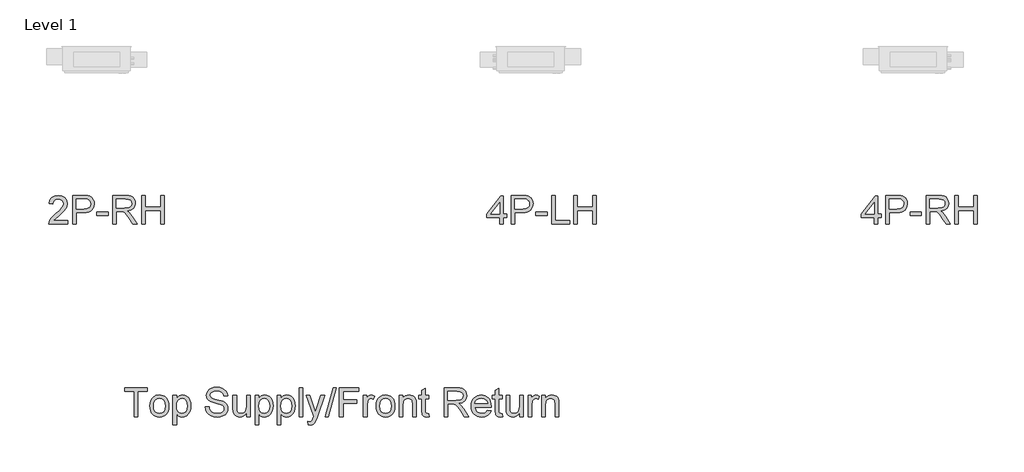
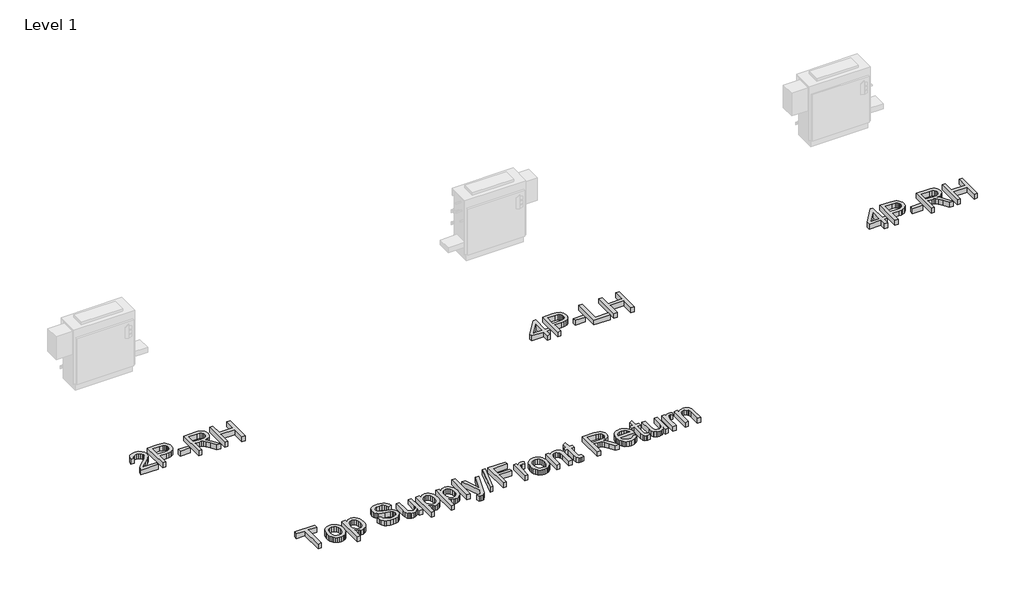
# One storey, part 3 of 3: 4 proxies.
"""IFC4 building model written with IfcOpenShell, lengths in millimetres."""

from ifc_helpers import new_model, si_unit, origin, origin_with_axes, place, context, project, spatial, polyline, outline, extrude, element, save

model = new_model("IFC4")

# Units and contexts
model_context = context("Model", 3, world=origin())
ifc_project = project(units=[si_unit("LENGTHUNIT", "METRE", prefix="MILLI")], contexts=[model_context])

# Site, building, storey
site = spatial("IfcSite", under=ifc_project)
building = spatial("IfcBuilding", under=site)
storey = spatial("IfcBuildingStorey", under=building, Name="Level 1", Elevation=0.0)

# Proxies
placement = place(None, origin())
element("IfcBuildingElementProxy", 1, Name="24\" Arial", ObjectType="24\" Arial", at=placement, inside=storey, context=model_context, shape_type="SweptSolid", body=[
    extrude(outline(polyline([(2904.3902636, -2672.4337764), (2904.3902636, -2612.6308793), (2788.7713292, -2612.6308793), (2788.7713292, -2580.7360008), (2912.3639833, -2421.2616085), (2936.2851421, -2421.2616085), (2936.2851421, -2580.7360008), (2968.1800206, -2580.7360008), (2968.1800206, -2612.6308793), (2936.2851421, -2612.6308793), (2936.2851421, -2672.4337764), (2904.3902636, -2672.4337764)]), holes=[polyline([(2904.3902636, -2580.7360008), (2904.3902636, -2482.1858099), (2828.0169804, -2580.7360008), (2904.3902636, -2580.7360008)])]), origin_with_axes(), (0.0, 0.0, 1.0), 50.8),
    extrude(outline(polyline([(3008.0486187, -2672.4337764), (3008.0486187, -2417.2747487), (3102.6119498, -2417.2747487), (3140.7362967, -2419.7042414), (3157.7349587, -2424.2439665), (3171.7279022, -2431.6336734), (3182.9954533, -2442.2081961), (3191.817938, -2456.3023685), (3197.5179016, -2472.9272624), (3199.4178895, -2491.0939498), (3194.2863649, -2521.1667088), (3178.891791, -2546.2247456), (3166.5632836, -2556.0906663), (3150.1038599, -2563.1377525), (3129.5135199, -2567.3660042), (3104.7922637, -2568.7754214), (3039.9434971, -2568.7754214), (3039.9434971, -2672.4337764), (3008.0486187, -2672.4337764)]), holes=[polyline([(3039.9434971, -2536.8805429), (3106.6611043, -2536.8805429), (3134.942891, -2533.9526928), (3153.6312964, -2525.1691422), (3164.0500824, -2511.0749699), (3167.523011, -2492.2152541), (3165.4750733, -2477.8874767), (3159.33126, -2465.8023079), (3149.8546811, -2456.707284), (3137.8084465, -2451.3499411), (3105.913568, -2449.1696271), (3039.9434971, -2449.1696271), (3039.9434971, -2536.8805429)])]), origin_with_axes(), (0.0, 0.0, 1.0), 50.8),
    extrude(outline(polyline([(3223.3390484, -2596.6834401), (3223.3390484, -2564.7885616), (3323.0105436, -2564.7885616), (3323.0105436, -2596.6834401), (3223.3390484, -2596.6834401)])), origin_with_axes(), (0.0, 0.0, 1.0), 50.8),
    extrude(outline(polyline([(3362.8791417, -2672.4337764), (3362.8791417, -2417.2747487), (3394.7740202, -2417.2747487), (3394.7740202, -2640.538898), (3522.353534, -2640.538898), (3522.353534, -2672.4337764), (3362.8791417, -2672.4337764)])), origin_with_axes(), (0.0, 0.0, 1.0), 50.8),
    extrude(outline(polyline([(3558.2352723, -2672.4337764), (3558.2352723, -2417.2747487), (3590.1301508, -2417.2747487), (3590.1301508, -2520.9331037), (3725.6833843, -2520.9331037), (3725.6833843, -2417.2747487), (3757.5782628, -2417.2747487), (3757.5782628, -2672.4337764), (3725.6833843, -2672.4337764), (3725.6833843, -2552.8279822), (3590.1301508, -2552.8279822), (3590.1301508, -2672.4337764), (3558.2352723, -2672.4337764)])), origin_with_axes(), (0.0, 0.0, 1.0), 50.8),
])
element("IfcBuildingElementProxy", 2, Name="24\" Arial", ObjectType="24\" Arial", at=placement, inside=storey, context=model_context, shape_type="SweptSolid", body=[
    extrude(outline(polyline([(6212.1276029, -2672.4337764), (6212.1276029, -2612.6308793), (6096.5086684, -2612.6308793), (6096.5086684, -2580.7360008), (6220.1013225, -2421.2616085), (6244.0224813, -2421.2616085), (6244.0224813, -2580.7360008), (6275.9173598, -2580.7360008), (6275.9173598, -2612.6308793), (6244.0224813, -2612.6308793), (6244.0224813, -2672.4337764), (6212.1276029, -2672.4337764)]), holes=[polyline([(6212.1276029, -2580.7360008), (6212.1276029, -2482.1858099), (6135.7543196, -2580.7360008), (6212.1276029, -2580.7360008)])]), origin_with_axes(), (0.0, 0.0, 1.0), 50.8),
    extrude(outline(polyline([(6315.7859579, -2672.4337764), (6315.7859579, -2417.2747487), (6410.349289, -2417.2747487), (6448.4736359, -2419.7042414), (6465.4722979, -2424.2439665), (6479.4652415, -2431.6336734), (6490.7327925, -2442.2081961), (6499.5552772, -2456.3023685), (6505.2552408, -2472.9272624), (6507.1552287, -2491.0939498), (6502.0237041, -2521.1667088), (6486.6291302, -2546.2247456), (6474.3006228, -2556.0906663), (6457.8411991, -2563.1377525), (6437.2508592, -2567.3660042), (6412.5296029, -2568.7754214), (6347.6808364, -2568.7754214), (6347.6808364, -2672.4337764), (6315.7859579, -2672.4337764)]), holes=[polyline([(6347.6808364, -2536.8805429), (6414.3984435, -2536.8805429), (6442.6802302, -2533.9526928), (6461.3686356, -2525.1691422), (6471.7874216, -2511.0749699), (6475.2603503, -2492.2152541), (6473.2124125, -2477.8874767), (6467.0685992, -2465.8023079), (6457.5920204, -2456.707284), (6445.5457857, -2451.3499411), (6413.6509073, -2449.1696271), (6347.6808364, -2449.1696271), (6347.6808364, -2536.8805429)])]), origin_with_axes(), (0.0, 0.0, 1.0), 50.8),
    extrude(outline(polyline([(6531.0763876, -2596.6834401), (6531.0763876, -2564.7885616), (6630.7478828, -2564.7885616), (6630.7478828, -2596.6834401), (6531.0763876, -2596.6834401)])), origin_with_axes(), (0.0, 0.0, 1.0), 50.8),
    extrude(outline(polyline([(6670.6164809, -2672.4337764), (6670.6164809, -2417.2747487), (6780.5665991, -2417.2747487), (6810.11764, -2418.9956393), (6831.617093, -2424.1583113), (6847.3309272, -2433.689398), (6859.5251117, -2448.5155329), (6867.3508814, -2466.9002517), (6869.9594713, -2487.10709), (6865.6377776, -2512.2429952), (6852.6726964, -2533.0805672), (6830.6748859, -2548.3583385), (6799.2550044, -2556.814842), (6817.3827576, -2570.4573779), (6843.2350517, -2603.2866766), (6885.7823212, -2672.4337764), (6848.7169839, -2672.4337764), (6815.5139171, -2619.5455893), (6791.5304635, -2584.5359766), (6774.6797514, -2567.9967378), (6759.5109957, -2561.9230061), (6741.0094744, -2560.8017018), (6702.5113594, -2560.8017018), (6702.5113594, -2672.4337764), (6670.6164809, -2672.4337764)]), holes=[polyline([(6702.5113594, -2528.9068233), (6773.9010678, -2528.9068233), (6810.3123109, -2524.3904587), (6822.288464, -2518.5191847), (6830.9941462, -2509.9380919), (6836.2969812, -2499.5582401), (6838.0645929, -2488.290689), (6834.6928931, -2472.7325915), (6824.5777937, -2460.1957863), (6807.1742162, -2451.9261669), (6781.9370821, -2449.1696271), (6702.5113594, -2449.1696271), (6702.5113594, -2528.9068233)])]), origin_with_axes(), (0.0, 0.0, 1.0), 50.8),
    extrude(outline(polyline([(6925.7755087, -2672.4337764), (6925.7755087, -2417.2747487), (6957.6703871, -2417.2747487), (6957.6703871, -2520.9331037), (7093.2236207, -2520.9331037), (7093.2236207, -2417.2747487), (7125.1184991, -2417.2747487), (7125.1184991, -2672.4337764), (7093.2236207, -2672.4337764), (7093.2236207, -2552.8279822), (6957.6703871, -2552.8279822), (6957.6703871, -2672.4337764), (6925.7755087, -2672.4337764)])), origin_with_axes(), (0.0, 0.0, 1.0), 50.8),
])
element("IfcBuildingElementProxy", 3, Name="24\" Arial", ObjectType="24\" Arial", at=placement, inside=storey, context=model_context, shape_type="SweptSolid", body=[
    extrude(outline(polyline([(-911.857121, -2640.538898), (-911.857121, -2672.4337764), (-1079.305233, -2672.4337764), (-1075.8790253, -2650.4437528), (-1068.0143214, -2633.2582067), (-1056.5053785, -2616.5865918), (-1016.5744857, -2579.6146965), (-982.1566725, -2549.0435801), (-961.5059846, -2526.4773306), (-951.1806406, -2508.1626934), (-947.7388593, -2490.3464136), (-950.9859697, -2474.3756138), (-960.727301, -2461.0990592), (-975.7013858, -2452.1519851), (-994.6467567, -2449.1696271), (-1014.5421216, -2452.0819036), (-1029.9989902, -2460.8187331), (-1039.9739266, -2474.6948741), (-1043.4234947, -2493.025085), (-1075.3183732, -2489.0382252), (-1067.5860455, -2458.1867827), (-1050.8677095, -2435.6516806), (-1026.0354909, -2421.8689816), (-993.9615152, -2417.2747487), (-961.6539345, -2422.3829128), (-936.8684368, -2437.7074052), (-921.1000948, -2460.6007017), (-915.8439808, -2488.4152784), (-921.5127971, -2518.6593477), (-940.3569392, -2549.9312793), (-986.0500903, -2593.6310005), (-1022.7416595, -2624.3111326), (-1037.1317316, -2640.538898), (-911.857121, -2640.538898)])), origin_with_axes(), (0.0, 0.0, 1.0), 50.8),
    extrude(outline(polyline([(-868.0016631, -2672.4337764), (-868.0016631, -2417.2747487), (-773.438332, -2417.2747487), (-735.3139851, -2419.7042414), (-718.3153231, -2424.2439665), (-704.3223795, -2431.6336734), (-693.0548285, -2442.2081961), (-684.2323438, -2456.3023685), (-678.5323802, -2472.9272624), (-676.6323923, -2491.0939498), (-681.7639169, -2521.1667088), (-697.1584908, -2546.2247456), (-709.4869982, -2556.0906663), (-725.9464219, -2563.1377525), (-746.5367619, -2567.3660042), (-771.2580181, -2568.7754214), (-836.1067846, -2568.7754214), (-836.1067846, -2672.4337764), (-868.0016631, -2672.4337764)]), holes=[polyline([(-836.1067846, -2536.8805429), (-769.3891775, -2536.8805429), (-741.1073908, -2533.9526928), (-722.4189854, -2525.1691422), (-712.0001994, -2511.0749699), (-708.5272708, -2492.2152541), (-710.5752085, -2477.8874767), (-716.7190218, -2465.8023079), (-726.1956007, -2456.707284), (-738.2418353, -2451.3499411), (-770.1367137, -2449.1696271), (-836.1067846, -2449.1696271), (-836.1067846, -2536.8805429)])]), origin_with_axes(), (0.0, 0.0, 1.0), 50.8),
    extrude(outline(polyline([(-652.7112334, -2596.6834401), (-652.7112334, -2564.7885616), (-553.0397382, -2564.7885616), (-553.0397382, -2596.6834401), (-652.7112334, -2596.6834401)])), origin_with_axes(), (0.0, 0.0, 1.0), 50.8),
    extrude(outline(polyline([(-513.1711401, -2672.4337764), (-513.1711401, -2417.2747487), (-403.2210219, -2417.2747487), (-373.669981, -2418.9956393), (-352.170528, -2424.1583113), (-336.4566938, -2433.689398), (-324.2625093, -2448.5155329), (-316.4367396, -2466.9002517), (-313.8281497, -2487.10709), (-318.1498434, -2512.2429952), (-331.1149246, -2533.0805672), (-353.1127351, -2548.3583385), (-384.5326166, -2556.814842), (-366.4048634, -2570.4573779), (-340.5525693, -2603.2866766), (-298.0052998, -2672.4337764), (-335.0706371, -2672.4337764), (-368.2737039, -2619.5455893), (-392.2571575, -2584.5359766), (-409.1078696, -2567.9967378), (-424.2766253, -2561.9230061), (-442.7781466, -2560.8017018), (-481.2762616, -2560.8017018), (-481.2762616, -2672.4337764), (-513.1711401, -2672.4337764)]), holes=[polyline([(-481.2762616, -2528.9068233), (-409.8865532, -2528.9068233), (-373.4753101, -2524.3904587), (-361.499157, -2518.5191847), (-352.7934748, -2509.9380919), (-347.4906398, -2499.5582401), (-345.7230281, -2488.290689), (-349.0947279, -2472.7325915), (-359.2098273, -2460.1957863), (-376.6134048, -2451.9261669), (-401.8505389, -2449.1696271), (-481.2762616, -2449.1696271), (-481.2762616, -2528.9068233)])]), origin_with_axes(), (0.0, 0.0, 1.0), 50.8),
    extrude(outline(polyline([(-258.0121123, -2672.4337764), (-258.0121123, -2417.2747487), (-226.1172339, -2417.2747487), (-226.1172339, -2520.9331037), (-90.5640003, -2520.9331037), (-90.5640003, -2417.2747487), (-58.6691219, -2417.2747487), (-58.6691219, -2672.4337764), (-90.5640003, -2672.4337764), (-90.5640003, -2552.8279822), (-226.1172339, -2552.8279822), (-226.1172339, -2672.4337764), (-258.0121123, -2672.4337764)])), origin_with_axes(), (0.0, 0.0, 1.0), 50.8),
])
element("IfcBuildingElementProxy", 4, Name="24\" Arial", ObjectType="24\" Arial", at=placement, inside=storey, context=model_context, shape_type="SweptSolid", body=[
    extrude(outline(polyline([(-324.4480727, -4373.3936295), (-324.4480727, -4150.1294801), (-408.1721287, -4150.1294801), (-408.1721287, -4118.2346017), (-208.8291382, -4118.2346017), (-208.8291382, -4150.1294801), (-292.5531942, -4150.1294801), (-292.5531942, -4373.3936295), (-324.4480727, -4373.3936295)])), origin_with_axes(), (0.0, 0.0, 1.0), 50.8),
    extrude(outline(polyline([(-184.9079794, -4279.7024239), (-183.1831953, -4255.4347509), (-178.0088431, -4234.523204), (-169.3849227, -4216.9677832), (-157.3114341, -4202.7684886), (-131.7394661, -4187.2103911), (-101.1216287, -4182.0243586), (-83.525327, -4183.6031395), (-67.6148753, -4188.3394823), (-53.3902734, -4196.2333868), (-40.8515214, -4207.2848532), (-30.6176728, -4221.1201133), (-23.3077809, -4237.365399), (-18.9218458, -4256.0207103), (-17.4598674, -4277.0860472), (-20.0450968, -4309.3079728), (-27.800785, -4333.8365048), (-40.5011138, -4352.2056499), (-57.920265, -4365.9494147), (-78.6098871, -4374.5227206), (-101.1216287, -4377.3804893), (-118.9748959, -4375.8075485), (-135.0332976, -4371.0887261), (-149.2968336, -4363.2240222), (-161.7655041, -4352.2134367), (-171.890337, -4338.2438537), (-179.1223606, -4321.5021573), (-183.4615747, -4301.9883473), (-184.9079794, -4279.7024239)]), holes=[polyline([(-153.0131009, -4279.6401293), (-149.3221408, -4308.5059287), (-138.2492607, -4329.0709614), (-121.5854326, -4341.3819484), (-101.1216287, -4345.4856108), (-80.7512669, -4341.3585879), (-64.1185861, -4328.9775194), (-53.0457059, -4308.1399474), (-49.3547459, -4278.6434143), (-53.0690664, -4250.6185931), (-64.2120281, -4230.3338865), (-80.8680694, -4218.0228994), (-101.1216287, -4213.9192371), (-121.5854326, -4218.0073258), (-138.2492607, -4230.2715918), (-149.3221408, -4250.7899035), (-153.0131009, -4279.6401293)])]), origin_with_axes(), (0.0, 0.0, 1.0), 50.8),
    extrude(outline(polyline([(18.4218709, -4445.157106), (18.4218709, -4186.0112184), (50.3167494, -4186.0112184), (50.3167494, -4217.2831501), (60.7199617, -4201.8574288), (72.3690677, -4190.8390565), (85.9493089, -4184.2280331), (102.1459269, -4182.0243586), (123.7154614, -4185.1079455), (142.5751771, -4194.3587062), (157.9308169, -4209.2159884), (168.9881234, -4229.1191401), (175.6692283, -4252.6198098), (177.8962632, -4278.2696462), (175.3811154, -4305.5469312), (167.8356717, -4329.943087), (155.5013242, -4350.2200068), (138.6194647, -4365.1395838), (118.9577049, -4374.3202629), (98.2836564, -4377.3804893), (83.6210451, -4375.3325515), (70.5313745, -4369.1887382), (50.3167494, -4348.4757556), (50.3167494, -4445.157106), (18.4218709, -4445.157106)]), holes=[polyline([(50.3167494, -4281.1974964), (53.7663175, -4309.7907566), (64.115022, -4329.7873503), (79.3850065, -4341.5610457), (97.5984149, -4345.4856108), (116.107723, -4341.4208826), (131.7670494, -4329.2266981), (142.4428009, -4308.4981419), (146.0013848, -4278.8302984), (142.5284561, -4250.3927749), (132.1096701, -4230.1158551), (116.8630461, -4217.9683916), (98.9066033, -4213.9192371), (80.8800789, -4218.2253572), (65.0494422, -4231.1437174), (53.9999226, -4252.2694022), (50.3167494, -4281.1974964)])]), origin_with_axes(), (0.0, 0.0, 1.0), 50.8),
    extrude(outline(polyline([(305.4757771, -4285.6827137), (337.3706556, -4285.6827137), (341.0304683, -4303.3821909), (347.6492786, -4317.6087395), (357.9746225, -4328.899651), (372.7540364, -4337.7922173), (390.8194949, -4343.5622624), (411.0029727, -4345.4856108), (428.7725315, -4344.0294725), (444.3306289, -4339.6610578), (456.9375157, -4332.7463478), (465.8534424, -4323.6513239), (471.1562774, -4313.2091774), (472.9238891, -4302.2530997), (467.6288409, -4282.349948), (459.5616793, -4274.4774573), (445.9502907, -4267.8664339), (399.5096034, -4255.6878231), (349.5181191, -4239.9584152), (333.6407614, -4229.2281558), (322.388784, -4216.2241404), (315.6843186, -4201.2266951), (313.4494968, -4184.516146), (316.2138234, -4165.8355275), (324.5068033, -4148.4163763), (338.110405, -4133.6525361), (356.8065972, -4122.9378504), (379.2482573, -4116.420269), (404.0882627, -4114.2477419), (430.9995664, -4116.5214978), (454.5469572, -4123.3427658), (473.8894567, -4134.5713827), (488.1860868, -4150.0671855), (497.2343898, -4168.8646065), (500.8319078, -4189.9980782), (468.9370293, -4189.9980782), (463.081329, -4170.9670521), (450.8715708, -4157.2310742), (431.7938237, -4148.9147338), (405.3341564, -4146.1426203), (378.2515423, -4148.8835865), (359.6721527, -4157.1064848), (348.9263196, -4169.2072273), (345.3443752, -4183.5817257), (347.8828836, -4195.8382049), (355.4984088, -4205.6963387), (373.5015726, -4214.5110366), (407.5767651, -4223.5126185), (464.0157492, -4239.5223524), (482.1980103, -4251.0935901), (494.8827654, -4265.3746465), (502.334767, -4282.209785), (504.8187676, -4301.4432688), (501.9609989, -4321.1050286), (493.387693, -4339.5987631), (479.4492573, -4355.515055), (460.4960996, -4367.4444871), (437.7040319, -4374.8964887), (412.2488664, -4377.3804893), (381.0002953, -4374.7018178), (355.2803774, -4366.6658035), (334.793213, -4353.241299), (319.2429024, -4334.3971569), (309.2601792, -4311.4415657), (305.4757771, -4285.6827137)])), origin_with_axes(), (0.0, 0.0, 1.0), 50.8),
    extrude(outline(polyline([(668.2800198, -4373.3936295), (668.2800198, -4341.1872776), (656.7399295, -4357.0218077), (643.2998513, -4368.3321863), (627.9597852, -4375.1184135), (610.7197313, -4377.3804893), (595.1849943, -4375.7919748), (580.7248407, -4371.0264314), (568.5929509, -4363.8625427), (560.0430054, -4355.0789922), (550.543066, -4331.5938961), (548.6742255, -4301.9416263), (548.6742255, -4186.0112184), (580.569104, -4186.0112184), (580.569104, -4286.9286073), (582.5002392, -4319.4464327), (587.14898, -4330.2934946), (595.1149128, -4338.5397535), (605.8685327, -4343.7491465), (618.8803349, -4345.4856108), (632.6396734, -4343.7102123), (645.5113126, -4338.3840168), (656.1247694, -4329.9975949), (663.1095609, -4319.0415172), (666.9874051, -4304.0362851), (668.2800198, -4283.5023997), (668.2800198, -4186.0112184), (700.1748982, -4186.0112184), (700.1748982, -4373.3936295), (668.2800198, -4373.3936295)])), origin_with_axes(), (0.0, 0.0, 1.0), 50.8),
    extrude(outline(polyline([(744.0303561, -4445.157106), (744.0303561, -4186.0112184), (775.9252346, -4186.0112184), (775.9252346, -4217.2831501), (786.3284469, -4201.8574288), (797.9775529, -4190.8390565), (811.5577942, -4184.2280331), (827.7544121, -4182.0243586), (849.3239466, -4185.1079455), (868.1836624, -4194.3587062), (883.5393021, -4209.2159884), (894.5966086, -4229.1191401), (901.2777135, -4252.6198098), (903.5047485, -4278.2696462), (900.9896006, -4305.5469312), (893.4441569, -4329.943087), (881.1098094, -4350.2200068), (864.2279499, -4365.1395838), (844.5661901, -4374.3202629), (823.8921417, -4377.3804893), (809.2295303, -4375.3325515), (796.1398597, -4369.1887382), (775.9252346, -4348.4757556), (775.9252346, -4445.157106), (744.0303561, -4445.157106)]), holes=[polyline([(775.9252346, -4281.1974964), (779.3748028, -4309.7907566), (789.7235072, -4329.7873503), (804.9934918, -4341.5610457), (823.2069002, -4345.4856108), (841.7162083, -4341.4208826), (857.3755346, -4329.2266981), (868.0512862, -4308.4981419), (871.60987, -4278.8302984), (868.1369414, -4250.3927749), (857.7181554, -4230.1158551), (842.4715313, -4217.9683916), (824.5150885, -4213.9192371), (806.4885642, -4218.2253572), (790.6579275, -4231.1437174), (779.6084078, -4252.2694022), (775.9252346, -4281.1974964)])]), origin_with_axes(), (0.0, 0.0, 1.0), 50.8),
    extrude(outline(polyline([(939.3864868, -4445.157106), (939.3864868, -4186.0112184), (971.2813653, -4186.0112184), (971.2813653, -4217.2831501), (981.6845776, -4201.8574288), (993.3336836, -4190.8390565), (1006.9139248, -4184.2280331), (1023.1105428, -4182.0243586), (1044.6800773, -4185.1079455), (1063.539793, -4194.3587062), (1078.8954328, -4209.2159884), (1089.9527393, -4229.1191401), (1096.6338442, -4252.6198098), (1098.8608791, -4278.2696462), (1096.3457313, -4305.5469312), (1088.8002876, -4329.943087), (1076.4659401, -4350.2200068), (1059.5840806, -4365.1395838), (1039.9223208, -4374.3202629), (1019.2482723, -4377.3804893), (1004.585661, -4375.3325515), (991.4959904, -4369.1887382), (971.2813653, -4348.4757556), (971.2813653, -4445.157106), (939.3864868, -4445.157106)]), holes=[polyline([(971.2813653, -4281.1974964), (974.7309334, -4309.7907566), (985.0796379, -4329.7873503), (1000.3496224, -4341.5610457), (1018.5630308, -4345.4856108), (1037.0723389, -4341.4208826), (1052.7316653, -4329.2266981), (1063.4074168, -4308.4981419), (1066.9660007, -4278.8302984), (1063.493072, -4250.3927749), (1053.074286, -4230.1158551), (1037.827662, -4217.9683916), (1019.8712192, -4213.9192371), (1001.8446948, -4218.2253572), (986.0140581, -4231.1437174), (974.9645385, -4252.2694022), (971.2813653, -4281.1974964)])]), origin_with_axes(), (0.0, 0.0, 1.0), 50.8),
    extrude(outline(polyline([(1134.7426174, -4373.3936295), (1134.7426174, -4118.2346017), (1166.6374959, -4118.2346017), (1166.6374959, -4373.3936295), (1134.7426174, -4373.3936295)])), origin_with_axes(), (0.0, 0.0, 1.0), 50.8),
    extrude(outline(polyline([(1214.4798136, -4445.157106), (1210.4929538, -4414.4458265), (1226.6895718, -4417.2490874), (1241.8271801, -4413.7294377), (1251.1090881, -4403.9180249), (1259.8303439, -4380.4329288), (1262.3221313, -4372.7083879), (1194.5455146, -4186.0112184), (1228.1846442, -4186.0112184), (1264.1286772, -4290.0433416), (1276.6499088, -4331.6561908), (1289.1711403, -4294.902327), (1326.1118883, -4186.0112184), (1359.5018392, -4186.0112184), (1294.2793045, -4377.8788467), (1277.3351503, -4419.491696), (1268.6606155, -4432.7760375), (1258.833629, -4441.9800771), (1247.418128, -4447.3529936), (1233.9780499, -4449.1439658), (1214.4798136, -4445.157106)])), origin_with_axes(), (0.0, 0.0, 1.0), 50.8),
    extrude(outline(polyline([(1361.9936265, -4373.3936295), (1433.7571031, -4118.2346017), (1462.5372474, -4118.2346017), (1390.7737708, -4373.3936295), (1361.9936265, -4373.3936295)])), origin_with_axes(), (0.0, 0.0, 1.0), 50.8),
    extrude(outline(polyline([(1489.5731404, -4373.3936295), (1489.5731404, -4118.2346017), (1661.0081122, -4118.2346017), (1661.0081122, -4150.1294801), (1521.4680189, -4150.1294801), (1521.4680189, -4225.8798165), (1641.0738132, -4225.8798165), (1641.0738132, -4257.774695), (1521.4680189, -4257.774695), (1521.4680189, -4373.3936295), (1489.5731404, -4373.3936295)])), origin_with_axes(), (0.0, 0.0, 1.0), 50.8),
    extrude(outline(polyline([(1700.8767103, -4373.3936295), (1700.8767103, -4186.0112184), (1728.784729, -4186.0112184), (1728.784729, -4213.732353), (1739.0944993, -4197.6603244), (1748.5944387, -4188.1915324), (1758.1255254, -4183.5661521), (1768.5287377, -4182.0243586), (1784.4138822, -4184.4849987), (1800.5482055, -4191.8669188), (1789.8958145, -4220.460179), (1767.4697281, -4213.9192371), (1757.9464282, -4215.4921779), (1749.4354169, -4220.2110002), (1742.5596411, -4227.7175097), (1737.9420476, -4237.6535119), (1732.7715888, -4274.9057332), (1732.7715888, -4373.3936295), (1700.8767103, -4373.3936295)])), origin_with_axes(), (0.0, 0.0, 1.0), 50.8),
    extrude(outline(polyline([(1812.508785, -4279.7024239), (1814.233569, -4255.4347509), (1819.4079213, -4234.523204), (1828.0318417, -4216.9677832), (1840.1053302, -4202.7684886), (1865.6772982, -4187.2103911), (1896.2951356, -4182.0243586), (1913.8914373, -4183.6031395), (1929.8018891, -4188.3394823), (1944.0264909, -4196.2333868), (1956.5652429, -4207.2848532), (1966.7990916, -4221.1201133), (1974.1089834, -4237.365399), (1978.4949186, -4256.0207103), (1979.9568969, -4277.0860472), (1977.3716675, -4309.3079728), (1969.6159793, -4333.8365048), (1956.9156505, -4352.2056499), (1939.4964994, -4365.9494147), (1918.8068773, -4374.5227206), (1896.2951356, -4377.3804893), (1878.4418684, -4375.8075485), (1862.3834668, -4371.0887261), (1848.1199307, -4363.2240222), (1835.6512603, -4352.2134367), (1825.5264273, -4338.2438537), (1818.2944038, -4321.5021573), (1813.9551897, -4301.9883473), (1812.508785, -4279.7024239)]), holes=[polyline([(1844.4036634, -4279.6401293), (1848.0946235, -4308.5059287), (1859.1675037, -4329.0709614), (1875.8313318, -4341.3819484), (1896.2951356, -4345.4856108), (1916.6654975, -4341.3585879), (1933.2981782, -4328.9775194), (1944.3710584, -4308.1399474), (1948.0620185, -4278.6434143), (1944.3476979, -4250.6185931), (1933.2047362, -4230.3338865), (1916.5486949, -4218.0228994), (1896.2951356, -4213.9192371), (1875.8313318, -4218.0073258), (1859.1675037, -4230.2715918), (1848.0946235, -4250.7899035), (1844.4036634, -4279.6401293)])]), origin_with_axes(), (0.0, 0.0, 1.0), 50.8),
    extrude(outline(polyline([(2015.8386352, -4373.3936295), (2015.8386352, -4186.0112184), (2047.7335137, -4186.0112184), (2047.7335137, -4212.1749859), (2058.8141807, -4198.9840865), (2072.1218827, -4189.5620154), (2087.6566196, -4183.9087728), (2105.4183916, -4182.0243586), (2121.1400126, -4183.5427916), (2135.5378715, -4188.0980904), (2147.545172, -4195.121816), (2156.0951174, -4204.0455296), (2165.6573515, -4227.4994783), (2167.339308, -4258.3353472), (2167.339308, -4373.3936295), (2135.4444295, -4373.3936295), (2135.4444295, -4262.6336804), (2131.7690431, -4234.4141883), (2126.6842395, -4226.0121927), (2118.7806014, -4219.4946114), (2096.8840198, -4213.9192371), (2078.2034013, -4217.049545), (2062.2793225, -4226.4404687), (2051.3699659, -4244.5837955), (2047.7335137, -4273.971313), (2047.7335137, -4373.3936295), (2015.8386352, -4373.3936295)])), origin_with_axes(), (0.0, 0.0, 1.0), 50.8),
    extrude(outline(polyline([(2278.9713826, -4346.7937992), (2282.9582424, -4374.3280497), (2259.0993783, -4377.3804893), (2243.7904595, -4376.0567272), (2232.3749586, -4372.0854411), (2219.0438961, -4358.1937264), (2215.1816257, -4322.0005147), (2215.1816257, -4217.9060969), (2191.2604668, -4217.9060969), (2191.2604668, -4186.0112184), (2215.1816257, -4186.0112184), (2215.1816257, -4140.473804), (2247.0765042, -4121.723104), (2247.0765042, -4186.0112184), (2278.9713826, -4186.0112184), (2278.9713826, -4217.9060969), (2247.0765042, -4217.9060969), (2247.0765042, -4321.0660945), (2248.7584606, -4337.5118912), (2254.2092455, -4343.3364442), (2265.079668, -4345.4856108), (2278.9713826, -4346.7937992)])), origin_with_axes(), (0.0, 0.0, 1.0), 50.8),
    extrude(outline(polyline([(2414.5246161, -4373.3936295), (2414.5246161, -4118.2346017), (2524.4747343, -4118.2346017), (2554.0257753, -4119.9554923), (2575.5252283, -4125.1181643), (2591.2390624, -4134.649251), (2603.4332469, -4149.475386), (2611.2590167, -4167.8601047), (2613.8676066, -4188.066943), (2609.5459128, -4213.2028482), (2596.5808316, -4234.0404202), (2574.5830212, -4249.3181916), (2543.1631397, -4257.774695), (2561.2908929, -4271.4172309), (2587.1431869, -4304.2465296), (2629.6904565, -4373.3936295), (2592.6251192, -4373.3936295), (2559.4220523, -4320.5054423), (2535.4385988, -4285.4958296), (2518.5878866, -4268.9565909), (2503.4191309, -4262.8828591), (2484.9176096, -4261.7615548), (2446.4194946, -4261.7615548), (2446.4194946, -4373.3936295), (2414.5246161, -4373.3936295)]), holes=[polyline([(2446.4194946, -4229.8666763), (2517.8092031, -4229.8666763), (2554.2204462, -4225.3503117), (2566.1965993, -4219.4790377), (2574.9022814, -4210.8979449), (2580.2051164, -4200.5180931), (2581.9727281, -4189.250542), (2578.6010283, -4173.6924446), (2568.4859289, -4161.1556393), (2551.0823514, -4152.8860199), (2525.8452174, -4150.1294801), (2446.4194946, -4150.1294801), (2446.4194946, -4229.8666763)])]), origin_with_axes(), (0.0, 0.0, 1.0), 50.8),
    extrude(outline(polyline([(2796.8893897, -4317.5775921), (2828.1613213, -4321.5644519), (2816.8937703, -4345.1274164), (2798.9139669, -4362.7412384), (2774.6268268, -4373.7206765), (2744.4372653, -4377.3804893), (2724.6470227, -4375.8017084), (2707.0137336, -4371.0653656), (2691.5373979, -4363.1714611), (2678.2180157, -4352.1199947), (2667.5072234, -4338.2185465), (2659.8566574, -4321.7746965), (2655.2663179, -4302.7884447), (2653.7362047, -4281.2597911), (2655.2818915, -4259.0011216), (2659.9189521, -4239.3821894), (2667.6473864, -4222.4029944), (2678.4671944, -4208.0635367), (2691.7515359, -4196.6713963), (2706.8735706, -4188.5341532), (2723.8332984, -4183.6518073), (2742.6307195, -4182.0243586), (2760.8227141, -4183.6479138), (2777.2743509, -4188.5185795), (2791.98563, -4196.6363556), (2804.9565513, -4208.0012421), (2815.544701, -4222.3095524), (2823.107665, -4239.2576), (2827.6454435, -4258.8453849), (2829.1580363, -4281.072907), (2828.9711522, -4289.6695735), (2685.6310831, -4289.6695735), (2691.1519496, -4313.5440113), (2703.9768677, -4331.0955387), (2722.4861759, -4341.8880928), (2745.0602122, -4345.4856108), (2762.0355137, -4343.819228), (2776.3321438, -4338.8200795), (2787.9501025, -4330.1766921), (2796.8893897, -4317.5775921)]), holes=[polyline([(2685.6310831, -4257.774695), (2797.2631578, -4257.774695), (2792.9492509, -4240.9239828), (2784.4927475, -4228.8699614), (2765.8977841, -4217.6569182), (2742.5061301, -4213.9192371), (2721.0066771, -4216.9015951), (2703.2293315, -4225.8486692), (2690.8716235, -4239.7948917), (2685.6310831, -4257.774695)])]), origin_with_axes(), (0.0, 0.0, 1.0), 50.8),
    extrude(outline(polyline([(2928.8295315, -4346.7937992), (2932.8163913, -4374.3280497), (2908.9575271, -4377.3804893), (2893.6486084, -4376.0567272), (2882.2331075, -4372.0854411), (2868.902045, -4358.1937264), (2865.0397746, -4322.0005147), (2865.0397746, -4217.9060969), (2841.1186157, -4217.9060969), (2841.1186157, -4186.0112184), (2865.0397746, -4186.0112184), (2865.0397746, -4140.473804), (2896.934653, -4121.723104), (2896.934653, -4186.0112184), (2928.8295315, -4186.0112184), (2928.8295315, -4217.9060969), (2896.934653, -4217.9060969), (2896.934653, -4321.0660945), (2898.6166095, -4337.5118912), (2904.0673944, -4343.3364442), (2914.9378169, -4345.4856108), (2928.8295315, -4346.7937992)])), origin_with_axes(), (0.0, 0.0, 1.0), 50.8),
    extrude(outline(polyline([(3080.3302042, -4373.3936295), (3080.3302042, -4341.1872776), (3068.7901139, -4357.0218077), (3055.3500358, -4368.3321863), (3040.0099697, -4375.1184135), (3022.7699158, -4377.3804893), (3007.2351788, -4375.7919748), (2992.7750252, -4371.0264314), (2980.6431353, -4363.8625427), (2972.0931899, -4355.0789922), (2962.5932505, -4331.5938961), (2960.72441, -4301.9416263), (2960.72441, -4186.0112184), (2992.6192884, -4186.0112184), (2992.6192884, -4286.9286073), (2994.5504237, -4319.4464327), (2999.1991645, -4330.2934946), (3007.1650973, -4338.5397535), (3017.9187172, -4343.7491465), (3030.9305194, -4345.4856108), (3044.6898579, -4343.7102123), (3057.5614971, -4338.3840168), (3068.1749539, -4329.9975949), (3075.1597454, -4319.0415172), (3079.0375895, -4304.0362851), (3080.3302042, -4283.5023997), (3080.3302042, -4186.0112184), (3112.2250827, -4186.0112184), (3112.2250827, -4373.3936295), (3080.3302042, -4373.3936295)])), origin_with_axes(), (0.0, 0.0, 1.0), 50.8),
    extrude(outline(polyline([(3156.0805406, -4373.3936295), (3156.0805406, -4186.0112184), (3183.9885593, -4186.0112184), (3183.9885593, -4213.732353), (3194.2983296, -4197.6603244), (3203.798269, -4188.1915324), (3213.3293557, -4183.5661521), (3223.732568, -4182.0243586), (3239.6177126, -4184.4849987), (3255.7520358, -4191.8669188), (3245.0996448, -4220.460179), (3222.6735584, -4213.9192371), (3213.1502585, -4215.4921779), (3204.6392472, -4220.2110002), (3197.7634714, -4227.7175097), (3193.1458779, -4237.6535119), (3187.9754191, -4274.9057332), (3187.9754191, -4373.3936295), (3156.0805406, -4373.3936295)])), origin_with_axes(), (0.0, 0.0, 1.0), 50.8),
    extrude(outline(polyline([(3275.6863349, -4373.3936295), (3275.6863349, -4186.0112184), (3307.5812134, -4186.0112184), (3307.5812134, -4212.1749859), (3318.6618804, -4198.9840865), (3331.9695824, -4189.5620154), (3347.5043193, -4183.9087728), (3365.2660912, -4182.0243586), (3380.9877122, -4183.5427916), (3395.3855712, -4188.0980904), (3407.3928716, -4195.121816), (3415.9428171, -4204.0455296), (3425.5050512, -4227.4994783), (3427.1870076, -4258.3353472), (3427.1870076, -4373.3936295), (3395.2921292, -4373.3936295), (3395.2921292, -4262.6336804), (3391.6167428, -4234.4141883), (3386.5319392, -4226.0121927), (3378.6283011, -4219.4946114), (3356.7317194, -4213.9192371), (3338.0511009, -4217.049545), (3322.1270222, -4226.4404687), (3311.2176656, -4244.5837955), (3307.5812134, -4273.971313), (3307.5812134, -4373.3936295), (3275.6863349, -4373.3936295)])), origin_with_axes(), (0.0, 0.0, 1.0), 50.8),
])

save(model, "model.ifc")
